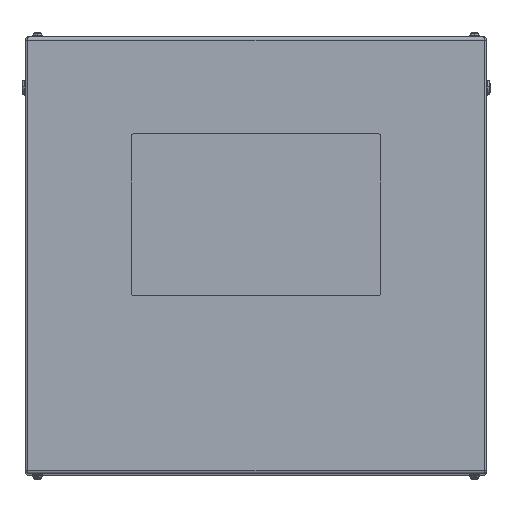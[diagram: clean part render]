
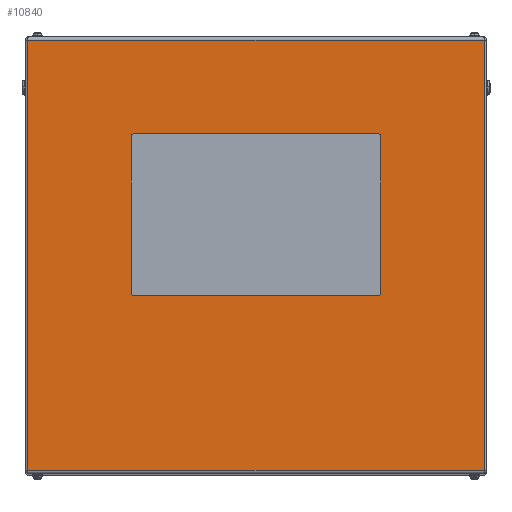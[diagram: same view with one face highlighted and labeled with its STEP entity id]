
A CAD part, top view. The second image highlights one B-rep face of the part: STEP entity #10840.
In plain terms, the highlighted planar face has unit normal (0, 0, 1).
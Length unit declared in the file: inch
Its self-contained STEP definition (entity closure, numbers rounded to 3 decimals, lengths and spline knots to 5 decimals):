
#11 = LINE ( 'NONE', #7897, #10029 ) ;
#104 = ORIENTED_EDGE ( 'NONE', *, *, #16648, .F. ) ;
#188 = CARTESIAN_POINT ( 'NONE',  ( 18.3, -17.234, 33.5 ) ) ;
#224 = VERTEX_POINT ( 'NONE', #3230 ) ;
#383 = VECTOR ( 'NONE', #13043, 39.37008 ) ;
#480 = CARTESIAN_POINT ( 'NONE',  ( -9.75, 9.5, 33.5 ) ) ;
#547 = ORIENTED_EDGE ( 'NONE', *, *, #17871, .F. ) ;
#597 = DIRECTION ( 'NONE',  ( 0., 0., 1. ) ) ;
#602 = EDGE_CURVE ( 'NONE', #18244, #5585, #13734, .T. ) ;
#636 = VERTEX_POINT ( 'NONE', #9516 ) ;
#710 = DIRECTION ( 'NONE',  ( -1., 0., 0. ) ) ;
#929 = VECTOR ( 'NONE', #11809, 39.37008 ) ;
#1224 = VERTEX_POINT ( 'NONE', #4609 ) ;
#1753 = VECTOR ( 'NONE', #15773, 39.37008 ) ;
#1950 = FACE_OUTER_BOUND ( 'NONE', #6563, .T. ) ;
#2121 = CARTESIAN_POINT ( 'NONE',  ( 9.75, -3., 33.5 ) ) ;
#2455 = AXIS2_PLACEMENT_3D ( 'NONE', #480, #19787, #5386 ) ;
#2621 = EDGE_LOOP ( 'NONE', ( #11708, #8392, #5486, #15366, #8278, #104, #18460, #547 ) ) ;
#3149 = CARTESIAN_POINT ( 'NONE',  ( -9.75, 9.75, 33.5 ) ) ;
#3230 = CARTESIAN_POINT ( 'NONE',  ( -10., 9.5, 33.5 ) ) ;
#3339 = DIRECTION ( 'NONE',  ( 1., 0., 0. ) ) ;
#3524 = VERTEX_POINT ( 'NONE', #5141 ) ;
#3572 = ORIENTED_EDGE ( 'NONE', *, *, #5388, .T. ) ;
#3985 = VECTOR ( 'NONE', #3339, 39.37008 ) ;
#4010 = AXIS2_PLACEMENT_3D ( 'NONE', #16460, #12019, #710 ) ;
#4041 = DIRECTION ( 'NONE',  ( -1., 0., 0. ) ) ;
#4089 = CARTESIAN_POINT ( 'NONE',  ( -9.75, -3., 33.5 ) ) ;
#4144 = EDGE_CURVE ( 'NONE', #1224, #9409, #5199, .T. ) ;
#4260 = AXIS2_PLACEMENT_3D ( 'NONE', #18565, #597, #4041 ) ;
#4609 = CARTESIAN_POINT ( 'NONE',  ( 10., -3., 33.5 ) ) ;
#4619 = VERTEX_POINT ( 'NONE', #13329 ) ;
#4788 = CIRCLE ( 'NONE', #2455, 0.25 ) ;
#4977 = FACE_BOUND ( 'NONE', #2621, .T. ) ;
#5002 = DIRECTION ( 'NONE',  ( 0., -1., 0. ) ) ;
#5141 = CARTESIAN_POINT ( 'NONE',  ( -9.75, -3.25, 33.5 ) ) ;
#5199 = LINE ( 'NONE', #19817, #929 ) ;
#5205 = CARTESIAN_POINT ( 'NONE',  ( -9.75, 9.75, 33.5 ) ) ;
#5386 = DIRECTION ( 'NONE',  ( 1., 0., 0. ) ) ;
#5388 = EDGE_CURVE ( 'NONE', #14314, #18244, #12617, .T. ) ;
#5486 = ORIENTED_EDGE ( 'NONE', *, *, #16463, .F. ) ;
#5559 = CARTESIAN_POINT ( 'NONE',  ( 18.3, 17.5, 33.5 ) ) ;
#5585 = VERTEX_POINT ( 'NONE', #7577 ) ;
#5736 = ORIENTED_EDGE ( 'NONE', *, *, #15469, .T. ) ;
#6105 = DIRECTION ( 'NONE',  ( 0., -1., 0. ) ) ;
#6181 = CIRCLE ( 'NONE', #18249, 0.25 ) ;
#6236 = DIRECTION ( 'NONE',  ( 1., 0., 0. ) ) ;
#6563 = EDGE_LOOP ( 'NONE', ( #10878, #3572, #13592, #5736 ) ) ;
#6698 = CIRCLE ( 'NONE', #6993, 0.25 ) ;
#6912 = EDGE_CURVE ( 'NONE', #4619, #3524, #6181, .T. ) ;
#6993 = AXIS2_PLACEMENT_3D ( 'NONE', #2121, #20102, #18299 ) ;
#7497 = EDGE_CURVE ( 'NONE', #16493, #224, #4788, .T. ) ;
#7577 = CARTESIAN_POINT ( 'NONE',  ( 18.3, 17.234, 33.5 ) ) ;
#7863 = VERTEX_POINT ( 'NONE', #12264 ) ;
#7897 = CARTESIAN_POINT ( 'NONE',  ( -18.3, 17.5, 33.5 ) ) ;
#8016 = LINE ( 'NONE', #3149, #383 ) ;
#8278 = ORIENTED_EDGE ( 'NONE', *, *, #11427, .F. ) ;
#8392 = ORIENTED_EDGE ( 'NONE', *, *, #6912, .F. ) ;
#9000 = DIRECTION ( 'NONE',  ( 0., 1., 0. ) ) ;
#9235 = LINE ( 'NONE', #14074, #16005 ) ;
#9409 = VERTEX_POINT ( 'NONE', #10948 ) ;
#9469 = LINE ( 'NONE', #16303, #3985 ) ;
#9516 = CARTESIAN_POINT ( 'NONE',  ( -18.3, 17.234, 33.5 ) ) ;
#9543 = CARTESIAN_POINT ( 'NONE',  ( -18.3, -17.234, 33.5 ) ) ;
#10029 = VECTOR ( 'NONE', #5002, 39.37008 ) ;
#10484 = DIRECTION ( 'NONE',  ( 0., 0., 1. ) ) ;
#10731 = LINE ( 'NONE', #10845, #1753 ) ;
#10840 = ADVANCED_FACE ( 'NONE', ( #4977, #1950 ), #19627, .F. ) ;
#10845 = CARTESIAN_POINT ( 'NONE',  ( 18.5, 17.234, 33.5 ) ) ;
#10878 = ORIENTED_EDGE ( 'NONE', *, *, #14244, .T. ) ;
#10948 = CARTESIAN_POINT ( 'NONE',  ( 10., 9.5, 33.5 ) ) ;
#11427 = EDGE_CURVE ( 'NONE', #15023, #16493, #8016, .T. ) ;
#11708 = ORIENTED_EDGE ( 'NONE', *, *, #16120, .F. ) ;
#11809 = DIRECTION ( 'NONE',  ( 0., 1., 0. ) ) ;
#12019 = DIRECTION ( 'NONE',  ( 0., 0., -1. ) ) ;
#12264 = CARTESIAN_POINT ( 'NONE',  ( 9.75, -3.25, 33.5 ) ) ;
#12382 = VECTOR ( 'NONE', #6236, 39.37008 ) ;
#12617 = LINE ( 'NONE', #17581, #12382 ) ;
#12636 = CIRCLE ( 'NONE', #4260, 0.25 ) ;
#13043 = DIRECTION ( 'NONE',  ( -1., 0., 0. ) ) ;
#13329 = CARTESIAN_POINT ( 'NONE',  ( -10., -3., 33.5 ) ) ;
#13592 = ORIENTED_EDGE ( 'NONE', *, *, #602, .T. ) ;
#13734 = LINE ( 'NONE', #5559, #14099 ) ;
#14074 = CARTESIAN_POINT ( 'NONE',  ( -10., 9.5, 33.5 ) ) ;
#14099 = VECTOR ( 'NONE', #9000, 39.37008 ) ;
#14244 = EDGE_CURVE ( 'NONE', #636, #14314, #11, .T. ) ;
#14314 = VERTEX_POINT ( 'NONE', #9543 ) ;
#15023 = VERTEX_POINT ( 'NONE', #20282 ) ;
#15321 = DIRECTION ( 'NONE',  ( 1., 0., 0. ) ) ;
#15366 = ORIENTED_EDGE ( 'NONE', *, *, #7497, .F. ) ;
#15469 = EDGE_CURVE ( 'NONE', #5585, #636, #10731, .T. ) ;
#15773 = DIRECTION ( 'NONE',  ( -1., 0., 0. ) ) ;
#16005 = VECTOR ( 'NONE', #6105, 39.37008 ) ;
#16120 = EDGE_CURVE ( 'NONE', #3524, #7863, #9469, .T. ) ;
#16303 = CARTESIAN_POINT ( 'NONE',  ( -9.75, -3.25, 33.5 ) ) ;
#16460 = CARTESIAN_POINT ( 'NONE',  ( 18.5, 17.5, 33.5 ) ) ;
#16463 = EDGE_CURVE ( 'NONE', #224, #4619, #9235, .T. ) ;
#16493 = VERTEX_POINT ( 'NONE', #5205 ) ;
#16648 = EDGE_CURVE ( 'NONE', #9409, #15023, #12636, .T. ) ;
#17581 = CARTESIAN_POINT ( 'NONE',  ( 18.3, -17.234, 33.5 ) ) ;
#17871 = EDGE_CURVE ( 'NONE', #7863, #1224, #6698, .T. ) ;
#18244 = VERTEX_POINT ( 'NONE', #188 ) ;
#18249 = AXIS2_PLACEMENT_3D ( 'NONE', #4089, #10484, #15321 ) ;
#18299 = DIRECTION ( 'NONE',  ( 1., 0., 0. ) ) ;
#18460 = ORIENTED_EDGE ( 'NONE', *, *, #4144, .F. ) ;
#18565 = CARTESIAN_POINT ( 'NONE',  ( 9.75, 9.5, 33.5 ) ) ;
#19627 = PLANE ( 'NONE',  #4010 ) ;
#19787 = DIRECTION ( 'NONE',  ( 0., 0., 1. ) ) ;
#19817 = CARTESIAN_POINT ( 'NONE',  ( 10., 9.5, 33.5 ) ) ;
#20102 = DIRECTION ( 'NONE',  ( 0., 0., 1. ) ) ;
#20282 = CARTESIAN_POINT ( 'NONE',  ( 9.75, 9.75, 33.5 ) ) ;
